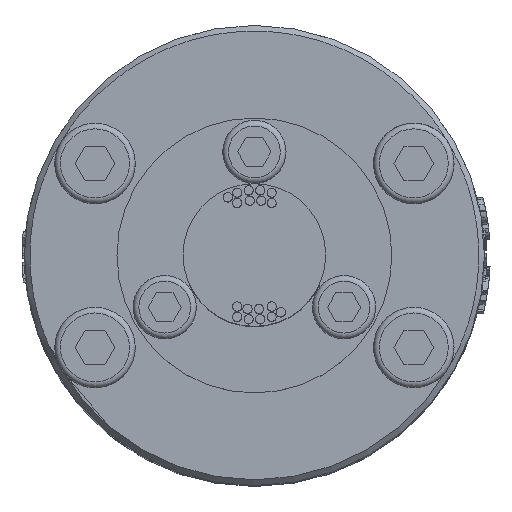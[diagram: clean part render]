
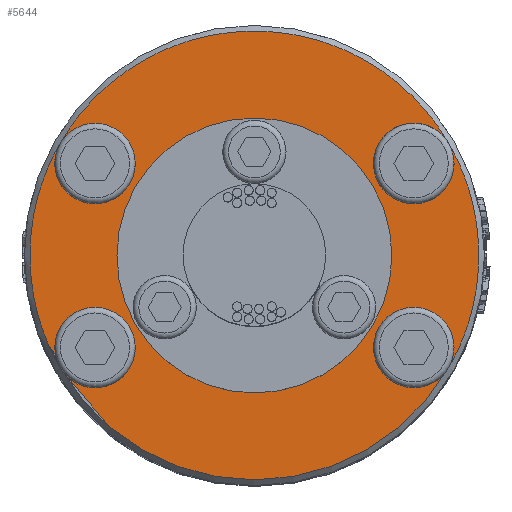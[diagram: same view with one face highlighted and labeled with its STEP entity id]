
A CAD part, top view. The second image highlights one B-rep face of the part: STEP entity #5644.
In plain terms, the highlighted planar face has unit normal (0, 0, 1).
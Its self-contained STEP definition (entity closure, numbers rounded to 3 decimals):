
#4214=PLANE('',#18425);
#5644=ADVANCED_FACE('',(#6809,#6810),#4214,.T.);
#6809=FACE_BOUND('',#7262,.T.);
#6810=FACE_BOUND('',#7263,.T.);
#7262=EDGE_LOOP('',(#8678,#8679,#8680,#8681,#8682,#8683,#8684,#8685));
#7263=EDGE_LOOP('',(#8686));
#8678=ORIENTED_EDGE('',*,*,#15547,.T.);
#8679=ORIENTED_EDGE('',*,*,#15467,.F.);
#8680=ORIENTED_EDGE('',*,*,#15546,.T.);
#8681=ORIENTED_EDGE('',*,*,#15530,.F.);
#8682=ORIENTED_EDGE('',*,*,#15545,.T.);
#8683=ORIENTED_EDGE('',*,*,#15509,.F.);
#8684=ORIENTED_EDGE('',*,*,#15548,.T.);
#8685=ORIENTED_EDGE('',*,*,#15488,.F.);
#8686=ORIENTED_EDGE('',*,*,#15449,.F.);
#13656=VERTEX_POINT('',#22273);
#13674=VERTEX_POINT('',#22329);
#13689=VERTEX_POINT('',#22375);
#13704=VERTEX_POINT('',#22421);
#13719=VERTEX_POINT('',#22467);
#15449=EDGE_CURVE('',#13656,#13656,#18049,.T.);
#15467=EDGE_CURVE('',#13674,#13674,#18061,.T.);
#15488=EDGE_CURVE('',#13689,#13689,#18064,.T.);
#15509=EDGE_CURVE('',#13704,#13704,#18067,.T.);
#15530=EDGE_CURVE('',#13719,#13719,#18070,.T.);
#15545=EDGE_CURVE('',#13719,#13704,#18073,.T.);
#15546=EDGE_CURVE('',#13674,#13719,#18074,.T.);
#15547=EDGE_CURVE('',#13689,#13674,#18075,.T.);
#15548=EDGE_CURVE('',#13704,#13689,#18076,.T.);
#18049=CIRCLE('',#18334,11.95);
#18061=CIRCLE('',#18366,3.5);
#18064=CIRCLE('',#18379,3.5);
#18067=CIRCLE('',#18392,3.5);
#18070=CIRCLE('',#18405,3.5);
#18073=CIRCLE('',#18418,19.5);
#18074=CIRCLE('',#18419,19.5);
#18075=CIRCLE('',#18420,19.5);
#18076=CIRCLE('',#18421,19.5);
#18334=AXIS2_PLACEMENT_3D('',#22272,#19383,#19384);
#18366=AXIS2_PLACEMENT_3D('',#22328,#19453,#19454);
#18379=AXIS2_PLACEMENT_3D('',#22374,#19497,#19498);
#18392=AXIS2_PLACEMENT_3D('',#22420,#19541,#19542);
#18405=AXIS2_PLACEMENT_3D('',#22466,#19585,#19586);
#18418=AXIS2_PLACEMENT_3D('',#22500,#19623,#19624);
#18419=AXIS2_PLACEMENT_3D('',#22501,#19625,#19626);
#18420=AXIS2_PLACEMENT_3D('',#22502,#19627,#19628);
#18421=AXIS2_PLACEMENT_3D('',#22503,#19629,#19630);
#18425=AXIS2_PLACEMENT_3D('',#22508,#19637,#19638);
#19383=DIRECTION('',(0.,0.,1.));
#19384=DIRECTION('',(0.,1.,0.));
#19453=DIRECTION('',(0.,0.,1.));
#19454=DIRECTION('',(1.,0.,0.));
#19497=DIRECTION('',(0.,0.,1.));
#19498=DIRECTION('',(1.,0.,0.));
#19541=DIRECTION('',(0.,0.,1.));
#19542=DIRECTION('',(1.,0.,0.));
#19585=DIRECTION('',(0.,0.,1.));
#19586=DIRECTION('',(1.,0.,0.));
#19623=DIRECTION('',(0.,0.,1.));
#19624=DIRECTION('',(1.,0.,0.));
#19625=DIRECTION('',(0.,0.,1.));
#19626=DIRECTION('',(1.,0.,0.));
#19627=DIRECTION('',(0.,0.,1.));
#19628=DIRECTION('',(1.,0.,0.));
#19629=DIRECTION('',(0.,0.,1.));
#19630=DIRECTION('',(1.,0.,0.));
#19637=DIRECTION('',(0.,0.,1.));
#19638=DIRECTION('',(1.,0.,0.));
#22272=CARTESIAN_POINT('',(0.,0.,63.));
#22273=CARTESIAN_POINT('',(0.,11.95,63.));
#22328=CARTESIAN_POINT('',(13.856,8.,63.));
#22329=CARTESIAN_POINT('',(16.887,9.75,63.));
#22374=CARTESIAN_POINT('',(13.856,-8.,63.));
#22375=CARTESIAN_POINT('',(16.887,-9.75,63.));
#22420=CARTESIAN_POINT('',(-13.856,-8.,63.));
#22421=CARTESIAN_POINT('',(-16.887,-9.75,63.));
#22466=CARTESIAN_POINT('',(-13.856,8.,63.));
#22467=CARTESIAN_POINT('',(-16.887,9.75,63.));
#22500=CARTESIAN_POINT('',(0.,0.,63.));
#22501=CARTESIAN_POINT('',(0.,0.,63.));
#22502=CARTESIAN_POINT('',(0.,0.,63.));
#22503=CARTESIAN_POINT('',(0.,0.,63.));
#22508=CARTESIAN_POINT('',(0.,0.,63.));
